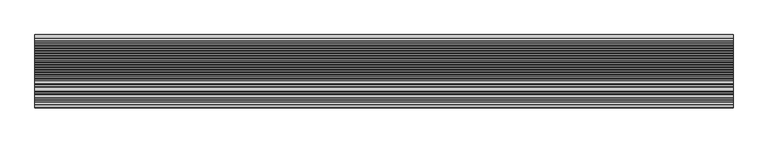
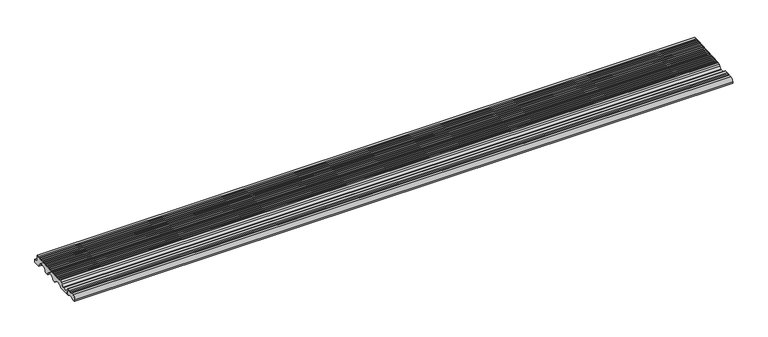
"""IFC4 building model written with IfcOpenShell, lengths in millimetres: proxy geometry, Muestra 2.5m 216 Anti-Slip : Muestra 2.5m 216 Anti-Slip."""

from ifc_helpers import new_model, si_unit, point, frame, frame_2d, origin, place, context, project, spatial, polyline, circle_curve, trimmed, segment, composite_curve, outline, extrude, source, transform, mapped, element, save


def generic_models_aabe8a61(model_context):
    return source(origin(), model_context, "Body", "SweptSolid", [
        extrude(outline(composite_curve([segment(polyline([(9605.2540387, -34.2859305), (9601.9960207, -10.3350334), (9606.3219655, -17.2085661)]), True, "CONTINUOUS"), segment(trimmed(circle_curve(frame_2d((9618.7488792, -9.9443953)), 14.394317), [point((9606.3219655, -17.2085661))], [point((9612.0710046, -22.695958))], True, "CARTESIAN"), True, "CONTINUOUS"), segment(trimmed(circle_curve(frame_2d((9614.1842689, -18.6606288)), 4.5551913), [point((9612.0710046, -22.695958))], [point((9614.4843306, -23.2059265))], True, "CARTESIAN"), True, "CONTINUOUS"), segment(polyline([(9614.4843306, -23.2059265), (9630.026433, -22.1799013)]), True, "CONTINUOUS"), segment(trimmed(circle_curve(frame_2d((9629.7263712, -17.6346036)), 4.5551913), [point((9630.026433, -22.1799013))], [point((9631.5517306, -21.8080711))], True, "CARTESIAN"), True, "CONTINUOUS"), segment(trimmed(circle_curve(frame_2d((9625.7836302, -8.619994)), 14.394317), [point((9631.5517306, -21.8080711))], [point((9639.0576377, -14.1874964))], True, "CARTESIAN"), True, "CONTINUOUS"), segment(polyline([(9639.0576377, -14.1874964), (9641.759243, -7.7463446), (9652.5211174, -7.0284741)]), True, "CONTINUOUS"), segment(trimmed(circle_curve(frame_2d((9655.403724, -4.0602122)), 4.1376321), [point((9652.5211174, -7.0284741))], [point((9657.9039196, -7.3570321))], True, "CARTESIAN"), True, "CONTINUOUS"), segment(trimmed(circle_curve(frame_2d((9660.4041153, -10.6538519)), 4.1376321), [point((9657.9039196, -7.3570321))], [point((9662.4492173, -7.0569704))], False, "CARTESIAN"), True, "CONTINUOUS"), segment(trimmed(circle_curve(frame_2d((9664.4943193, -3.4600888)), 4.1376321), [point((9662.4492173, -7.0569704))], [point((9666.994515, -6.7569086))], True, "CARTESIAN"), True, "CONTINUOUS"), segment(trimmed(circle_curve(frame_2d((9669.4947106, -10.0537285)), 4.1376321), [point((9666.994515, -6.7569086))], [point((9671.5398126, -6.4568469))], False, "CARTESIAN"), True, "CONTINUOUS"), segment(trimmed(circle_curve(frame_2d((9673.5849147, -2.8599653)), 4.1376321), [point((9671.5398126, -6.4568469))], [point((9676.0851103, -6.1567852))], True, "CARTESIAN"), True, "CONTINUOUS"), segment(trimmed(circle_curve(frame_2d((9678.5853059, -9.4536051)), 4.1376321), [point((9676.0851103, -6.1567852))], [point((9680.630408, -5.8567235))], False, "CARTESIAN"), True, "CONTINUOUS"), segment(trimmed(circle_curve(frame_2d((9682.67551, -2.2598419)), 4.1376321), [point((9680.630408, -5.8567235))], [point((9685.1757056, -5.5566618))], True, "CARTESIAN"), True, "CONTINUOUS"), segment(trimmed(circle_curve(frame_2d((9687.6759013, -8.8534816)), 4.1376321), [point((9685.1757056, -5.5566618))], [point((9689.7210033, -5.2566001))], False, "CARTESIAN"), True, "CONTINUOUS"), segment(trimmed(circle_curve(frame_2d((9691.7661053, -1.6597185)), 4.1376321), [point((9689.7210033, -5.2566001))], [point((9694.266301, -4.9565383))], True, "CARTESIAN"), True, "CONTINUOUS"), segment(trimmed(circle_curve(frame_2d((9696.7664966, -8.2533582)), 4.1376321), [point((9694.266301, -4.9565383))], [point((9698.8115986, -4.6564766))], False, "CARTESIAN"), True, "CONTINUOUS"), segment(trimmed(circle_curve(frame_2d((9700.8567007, -1.059595)), 4.1376321), [point((9698.8115986, -4.6564766))], [point((9703.3568963, -4.3564149))], True, "CARTESIAN"), True, "CONTINUOUS"), segment(trimmed(circle_curve(frame_2d((9705.8570919, -7.6532348)), 4.1376321), [point((9703.3568963, -4.3564149))], [point((9707.902194, -4.0563532))], False, "CARTESIAN"), True, "CONTINUOUS"), segment(trimmed(circle_curve(frame_2d((9709.947296, -0.4594716)), 4.1376321), [point((9707.902194, -4.0563532))], [point((9712.4474916, -3.7562915))], True, "CARTESIAN"), True, "CONTINUOUS"), segment(trimmed(circle_curve(frame_2d((9714.9476873, -7.0531113)), 4.1376321), [point((9712.4474916, -3.7562915))], [point((9716.9927893, -3.4562297))], False, "CARTESIAN"), True, "CONTINUOUS"), segment(trimmed(circle_curve(frame_2d((9719.0378913, 0.1406518)), 4.1376321), [point((9716.9927893, -3.4562297))], [point((9721.538087, -3.156168))], True, "CARTESIAN"), True, "CONTINUOUS"), segment(trimmed(circle_curve(frame_2d((9724.0382826, -6.4529879)), 4.1376321), [point((9721.538087, -3.156168))], [point((9726.0833846, -2.8561063))], False, "CARTESIAN"), True, "CONTINUOUS"), segment(trimmed(circle_curve(frame_2d((9728.1284867, 0.7407753)), 4.1376321), [point((9726.0833846, -2.8561063))], [point((9730.6286823, -2.5560446))], True, "CARTESIAN"), True, "CONTINUOUS"), segment(trimmed(circle_curve(frame_2d((9733.1288779, -5.8528645)), 4.1376321), [point((9730.6286823, -2.5560446))], [point((9735.17398, -2.2559829))], False, "CARTESIAN"), True, "CONTINUOUS"), segment(trimmed(circle_curve(frame_2d((9737.219082, 1.3408987)), 4.1376321), [point((9735.17398, -2.2559829))], [point((9739.7192776, -1.9559212))], True, "CARTESIAN"), True, "CONTINUOUS"), segment(trimmed(circle_curve(frame_2d((9742.2194733, -5.252741)), 4.1376321), [point((9739.7192776, -1.9559212))], [point((9744.2645753, -1.6558594))], False, "CARTESIAN"), True, "CONTINUOUS"), segment(trimmed(circle_curve(frame_2d((9746.3096773, 1.9410222)), 4.1376321), [point((9744.2645753, -1.6558594))], [point((9748.809873, -1.3557977))], True, "CARTESIAN"), True, "CONTINUOUS"), segment(trimmed(circle_curve(frame_2d((9751.3100686, -4.6526176)), 4.1376321), [point((9748.809873, -1.3557977))], [point((9753.3551706, -1.055736))], False, "CARTESIAN"), True, "CONTINUOUS"), segment(trimmed(circle_curve(frame_2d((9755.4002727, 2.5411456)), 4.1376321), [point((9753.3551706, -1.055736))], [point((9757.9004683, -0.7556743))], True, "CARTESIAN"), True, "CONTINUOUS"), segment(trimmed(circle_curve(frame_2d((9760.4006639, -4.0524942)), 4.1376321), [point((9757.9004683, -0.7556743))], [point((9762.445766, -0.4556126))], False, "CARTESIAN"), True, "CONTINUOUS"), segment(trimmed(circle_curve(frame_2d((9764.490868, 3.141269)), 4.1376321), [point((9762.445766, -0.4556126))], [point((9766.9910636, -0.1555508))], True, "CARTESIAN"), True, "CONTINUOUS"), segment(trimmed(circle_curve(frame_2d((9769.4912593, -3.4523707)), 4.1376321), [point((9766.9910636, -0.1555508))], [point((9771.5363613, 0.1445109))], False, "CARTESIAN"), True, "CONTINUOUS"), segment(trimmed(circle_curve(frame_2d((9773.5814633, 3.7413925)), 4.1376321), [point((9771.5363613, 0.1445109))], [point((9776.081659, 0.4445726))], True, "CARTESIAN"), True, "CONTINUOUS"), segment(trimmed(circle_curve(frame_2d((9778.5818546, -2.8522473)), 4.1376321), [point((9776.081659, 0.4445726))], [point((9780.6269566, 0.7446343))], False, "CARTESIAN"), True, "CONTINUOUS"), segment(trimmed(circle_curve(frame_2d((9782.6720586, 4.3415159)), 4.1376321), [point((9780.6269566, 0.7446343))], [point((9785.1722543, 1.044696))], True, "CARTESIAN"), True, "CONTINUOUS"), segment(trimmed(circle_curve(frame_2d((9787.6724499, -2.2521238)), 4.1376321), [point((9785.1722543, 1.044696))], [point((9789.717552, 1.3447577))], False, "CARTESIAN"), True, "CONTINUOUS"), segment(trimmed(circle_curve(frame_2d((9791.762654, 4.9416393)), 4.1376321), [point((9789.717552, 1.3447577))], [point((9795.0111624, 2.3789859))], True, "CARTESIAN"), True, "CONTINUOUS"), segment(polyline([(9795.0111624, 2.3789859), (9804.1816211, 2.9843816), (9804.1348552, -22.5023061), (9818.5959877, -22.9420686), (9818.248941, -34.354341), (9791.8989334, -34.354341)]), True, "CONTINUOUS"), segment(trimmed(circle_curve(frame_2d((9769.982267, -38.0655939)), 22.2286676), [point((9791.8989334, -34.354341))], [point((9748.07125, -34.3211314))], True, "CARTESIAN"), True, "CONTINUOUS"), segment(polyline([(9748.07125, -34.3211314), (9735.7008177, -34.3211314)]), True, "CONTINUOUS"), segment(trimmed(circle_curve(frame_2d((9717.1955358, -38.2296779)), 18.9135452), [point((9735.7008177, -34.3211314))], [point((9698.6944467, -34.301333))], True, "CARTESIAN"), True, "CONTINUOUS"), segment(polyline([(9698.6944467, -34.301333), (9686.4885599, -34.301333), (9685.9293225, -31.9163604)]), True, "CONTINUOUS"), segment(trimmed(circle_curve(frame_2d((9680.6074409, -33.1642552)), 5.4662296), [point((9685.9293225, -31.9163604))], [point((9684.2236313, -29.0651293))], True, "CARTESIAN"), True, "CONTINUOUS"), segment(trimmed(circle_curve(frame_2d((9667.2055186, -48.3559792)), 25.7245612), [point((9684.2236313, -29.0651293))], [point((9651.2045396, -28.213444))], True, "CARTESIAN"), True, "CONTINUOUS"), segment(trimmed(circle_curve(frame_2d((9654.6045986, -32.4935451)), 5.4662296), [point((9651.2045396, -28.213444))], [point((9649.4375652, -30.7098881))], True, "CARTESIAN"), True, "CONTINUOUS"), segment(polyline([(9649.4375652, -30.7098881), (9648.2031174, -34.2859305), (9605.2540387, -34.2859305)]), True, "CONTINUOUS")], self_intersect=False)), frame((42873.6333178, 0.0, 0.0), z_axis=(1.0, 0.0, 0.0), x_axis=(0.0, 1.0, 0.0)), (0.0, 0.0, 1.0), 2500.0),
        extrude(outline(composite_curve([segment(trimmed(circle_curve(frame_2d((9568.9210505, -26.1913998)), 13.6655739), [point((9555.2560572, -26.3173723))], [point((9567.4003303, -12.6107031))], False, "CARTESIAN"), True, "CONTINUOUS"), segment(polyline([(9567.4003303, -12.6107031), (9575.9533617, -12.0569106)]), True, "CONTINUOUS"), segment(trimmed(circle_curve(frame_2d((9578.8349845, -9.0876936)), 4.1376321), [point((9575.9533617, -12.0569106))], [point((9581.3351802, -12.3845135))], True, "CARTESIAN"), True, "CONTINUOUS"), segment(trimmed(circle_curve(frame_2d((9583.8353758, -15.6813333)), 4.1376321), [point((9581.3351802, -12.3845135))], [point((9585.8804778, -12.0844517))], False, "CARTESIAN"), True, "CONTINUOUS"), segment(trimmed(circle_curve(frame_2d((9587.9255799, -8.4875702)), 4.1376321), [point((9585.8804778, -12.0844517))], [point((9591.1740883, -11.0502235))], True, "CARTESIAN"), True, "CONTINUOUS"), segment(polyline([(9591.1740883, -11.0502235), (9602.0076991, -10.3350334), (9605.2633666, -34.2686509), (9597.6464145, -34.2686509)]), True, "CONTINUOUS"), segment(trimmed(circle_curve(frame_2d((9583.4320548, -45.4475389)), 18.0835716), [point((9597.6464145, -34.2686509))], [point((9569.2319054, -34.2506054))], True, "CARTESIAN"), True, "CONTINUOUS"), segment(polyline([(9569.2319054, -34.2506054), (9560.4083971, -34.2506054), (9560.147221, -31.7656812), (9555.2443788, -31.7551517), (9555.2560572, -26.3173723)]), True, "CONTINUOUS")], self_intersect=False)), frame((42873.6333178, 0.0, 0.0), z_axis=(1.0, 0.0, 0.0), x_axis=(0.0, 1.0, 0.0)), (0.0, 0.0, 1.0), 2500.0),
    ])


if __name__ == "__main__":
    model = new_model("IFC4")
    model_context = context("Model", 3, world=origin())
    ifc_project = project(units=[si_unit("LENGTHUNIT", "METRE", prefix="MILLI")], contexts=[model_context])
    site = spatial("IfcSite", under=ifc_project)
    building = spatial("IfcBuilding", under=site)
    placement = place(None, origin())
    generic_models_shape = generic_models_aabe8a61(model_context)
    element("IfcBuildingElementProxy", 1, Name="Muestra 2.5m 216 Anti-Slip : Muestra 2.5m 216 Anti-Slip", ObjectType="Muestra 2.5m 216 Anti-Slip : Muestra 2.5m 216 Anti-Slip", at=placement, inside=building, context=model_context, shape_type="MappedRepresentation", body=[
        mapped(generic_models_shape, transform((0.0, 0.0, 0.0), x_axis=(1.0, 0.0, 0.0), y_axis=(0.0, 1.0, 0.0), z_axis=(0.0, 0.0, 1.0))),
    ])
    save(model, "model.ifc")
